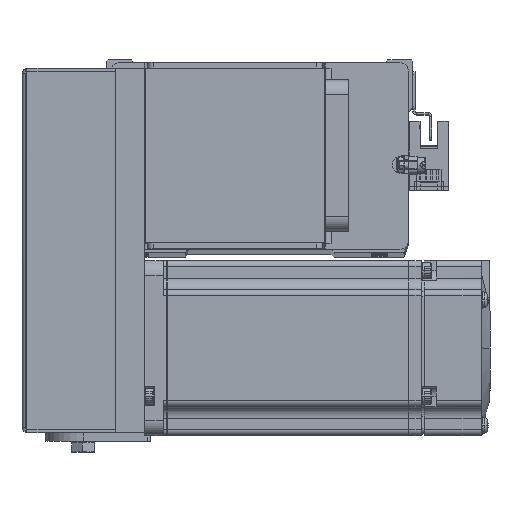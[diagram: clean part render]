
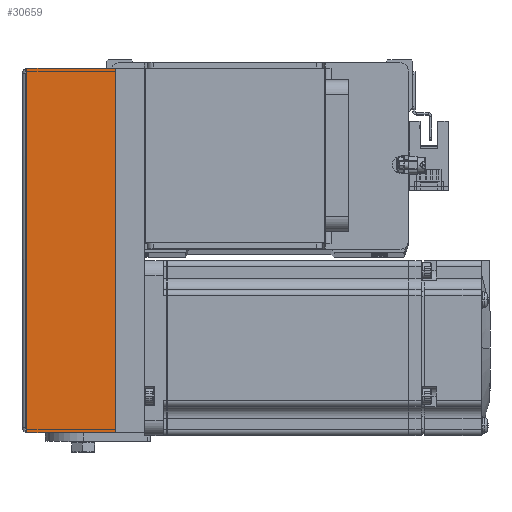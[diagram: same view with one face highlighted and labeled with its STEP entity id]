
A CAD part, top view. The second image highlights one B-rep face of the part: STEP entity #30659.
In plain terms, the highlighted planar face has unit normal (0, 0, 1) as drawn and (0, 0, -1) by its records, which use the part's own axes.
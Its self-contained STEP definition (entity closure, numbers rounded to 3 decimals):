
#1018 = CARTESIAN_POINT ( 'NONE',  ( 0., 0., -31. ) ) ;
#3169 = VERTEX_POINT ( 'NONE', #16283 ) ;
#3194 = CARTESIAN_POINT ( 'NONE',  ( 0., -30.8, -31. ) ) ;
#3215 = VERTEX_POINT ( 'NONE', #15872 ) ;
#3390 = DIRECTION ( 'NONE',  ( 0., 1., 0. ) ) ;
#4255 = LINE ( 'NONE', #29428, #15988 ) ;
#9680 = FACE_OUTER_BOUND ( 'NONE', #38335, .T. ) ;
#9842 = ORIENTED_EDGE ( 'NONE', *, *, #22818, .F. ) ;
#11587 = EDGE_CURVE ( 'NONE', #3215, #16114, #4255, .T. ) ;
#15764 = LINE ( 'NONE', #38001, #29134 ) ;
#15872 = CARTESIAN_POINT ( 'NONE',  ( -62.5, -30.3, -31. ) ) ;
#15988 = VECTOR ( 'NONE', #25888, 1000. ) ;
#16114 = VERTEX_POINT ( 'NONE', #21908 ) ;
#16283 = CARTESIAN_POINT ( 'NONE',  ( 62.5, -30.3, -31. ) ) ;
#16306 = ORIENTED_EDGE ( 'NONE', *, *, #36398, .F. ) ;
#18903 = PLANE ( 'NONE',  #31367 ) ;
#19314 = EDGE_CURVE ( 'NONE', #16114, #27113, #23253, .T. ) ;
#20969 = LINE ( 'NONE', #24103, #31740 ) ;
#21908 = CARTESIAN_POINT ( 'NONE',  ( -62.5, 0., -31. ) ) ;
#22818 = EDGE_CURVE ( 'NONE', #3169, #27113, #15764, .T. ) ;
#23253 = LINE ( 'NONE', #1018, #30870 ) ;
#24103 = CARTESIAN_POINT ( 'NONE',  ( 62.5, -30.3, -31. ) ) ;
#25230 = DIRECTION ( 'NONE',  ( 0., 0., 1. ) ) ;
#25888 = DIRECTION ( 'NONE',  ( 0., 1., 0. ) ) ;
#27113 = VERTEX_POINT ( 'NONE', #36545 ) ;
#29134 = VECTOR ( 'NONE', #34848, 1000. ) ;
#29428 = CARTESIAN_POINT ( 'NONE',  ( -62.5, -30.3, -31. ) ) ;
#30659 = ADVANCED_FACE ( 'NONE', ( #9680 ), #18903, .F. ) ;
#30870 = VECTOR ( 'NONE', #32892, 1000. ) ;
#31367 = AXIS2_PLACEMENT_3D ( 'NONE', #3194, #25230, #3390 ) ;
#31740 = VECTOR ( 'NONE', #33750, 1000. ) ;
#32892 = DIRECTION ( 'NONE',  ( 1., 0., 0. ) ) ;
#33750 = DIRECTION ( 'NONE',  ( 1., 0., 0. ) ) ;
#34848 = DIRECTION ( 'NONE',  ( 0., 1., 0. ) ) ;
#36398 = EDGE_CURVE ( 'NONE', #3215, #3169, #20969, .T. ) ;
#36545 = CARTESIAN_POINT ( 'NONE',  ( 62.5, 0., -31. ) ) ;
#38001 = CARTESIAN_POINT ( 'NONE',  ( 62.5, -30.3, -31. ) ) ;
#38335 = EDGE_LOOP ( 'NONE', ( #16306, #39313, #41151, #9842 ) ) ;
#39313 = ORIENTED_EDGE ( 'NONE', *, *, #11587, .T. ) ;
#41151 = ORIENTED_EDGE ( 'NONE', *, *, #19314, .T. ) ;
